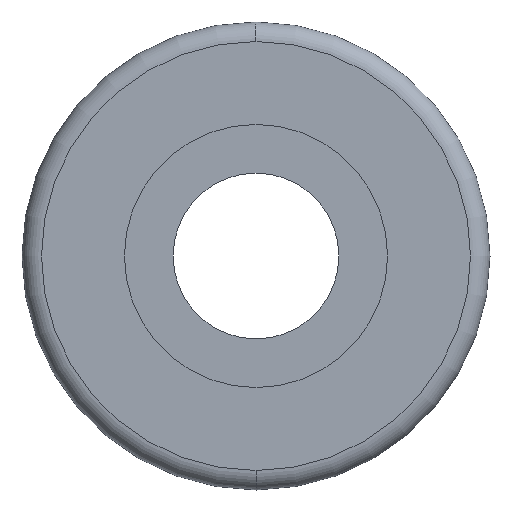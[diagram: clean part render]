
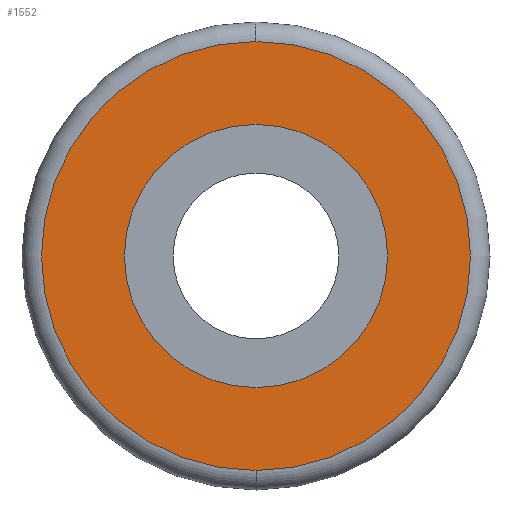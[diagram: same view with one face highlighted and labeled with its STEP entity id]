
A CAD part, left-side view. The second image highlights one B-rep face of the part: STEP entity #1552.
In plain terms, the highlighted planar face has unit normal (-1, 0, 0).
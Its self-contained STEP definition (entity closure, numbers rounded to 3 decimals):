
#721 = CARTESIAN_POINT ( 'NONE',  ( 2., 0., -22. ) ) ;
#747 = CARTESIAN_POINT ( 'NONE',  ( 2., 0., 13.5 ) ) ;
#774 = CARTESIAN_POINT ( 'NONE',  ( 2., 0., -13.5 ) ) ;
#805 = CARTESIAN_POINT ( 'NONE',  ( 2., 0., 22. ) ) ;
#811 = CIRCLE ( 'NONE', #860, 22. ) ;
#829 = DIRECTION ( 'NONE',  ( 0., 0., 1. ) ) ;
#830 = DIRECTION ( 'NONE',  ( -1., 0., 0. ) ) ;
#831 = CARTESIAN_POINT ( 'NONE',  ( 2., 0., 0. ) ) ;
#832 = AXIS2_PLACEMENT_3D ( 'NONE', #831, #830, #829 ) ;
#841 = CIRCLE ( 'NONE', #832, 13.5 ) ;
#855 = DIRECTION ( 'NONE',  ( 0., 0., -1. ) ) ;
#856 = DIRECTION ( 'NONE',  ( -1., 0., 0. ) ) ;
#857 = CARTESIAN_POINT ( 'NONE',  ( 2., 0., 0. ) ) ;
#860 = AXIS2_PLACEMENT_3D ( 'NONE', #857, #856, #855 ) ;
#868 = DIRECTION ( 'NONE',  ( 0., 0., -1. ) ) ;
#869 = DIRECTION ( 'NONE',  ( -1., 0., 0. ) ) ;
#870 = CARTESIAN_POINT ( 'NONE',  ( 2., 0., 0. ) ) ;
#871 = AXIS2_PLACEMENT_3D ( 'NONE', #870, #869, #868 ) ;
#872 = FACE_BOUND ( 'NONE', #1568, .T. ) ;
#873 = AXIS2_PLACEMENT_3D ( 'NONE', #876, #927, #926 ) ;
#875 = CIRCLE ( 'NONE', #871, 22. ) ;
#876 = CARTESIAN_POINT ( 'NONE',  ( 2., 13.5, 0. ) ) ;
#879 = FACE_OUTER_BOUND ( 'NONE', #1553, .T. ) ;
#884 = PLANE ( 'NONE',  #873 ) ;
#910 = DIRECTION ( 'NONE',  ( 0., 0., 1. ) ) ;
#911 = DIRECTION ( 'NONE',  ( -1., 0., 0. ) ) ;
#919 = CIRCLE ( 'NONE', #928, 13.5 ) ;
#925 = CARTESIAN_POINT ( 'NONE',  ( 2., 0., 0. ) ) ;
#926 = DIRECTION ( 'NONE',  ( 0., 0., -1. ) ) ;
#927 = DIRECTION ( 'NONE',  ( 1., 0., 0. ) ) ;
#928 = AXIS2_PLACEMENT_3D ( 'NONE', #925, #911, #910 ) ;
#1476 = VERTEX_POINT ( 'NONE', #721 ) ;
#1477 = VERTEX_POINT ( 'NONE', #774 ) ;
#1499 = VERTEX_POINT ( 'NONE', #747 ) ;
#1502 = VERTEX_POINT ( 'NONE', #805 ) ;
#1507 = EDGE_CURVE ( 'NONE', #1499, #1477, #841, .T. ) ;
#1512 = ORIENTED_EDGE ( 'NONE', *, *, #1522, .T. ) ;
#1522 = EDGE_CURVE ( 'NONE', #1502, #1476, #811, .T. ) ;
#1548 = ORIENTED_EDGE ( 'NONE', *, *, #1562, .F. ) ;
#1549 = ORIENTED_EDGE ( 'NONE', *, *, #1550, .T. ) ;
#1550 = EDGE_CURVE ( 'NONE', #1476, #1502, #875, .T. ) ;
#1551 = ORIENTED_EDGE ( 'NONE', *, *, #1507, .F. ) ;
#1552 = ADVANCED_FACE ( 'NONE', ( #879, #872 ), #884, .F. ) ;
#1553 = EDGE_LOOP ( 'NONE', ( #1549, #1512 ) ) ;
#1562 = EDGE_CURVE ( 'NONE', #1477, #1499, #919, .T. ) ;
#1568 = EDGE_LOOP ( 'NONE', ( #1551, #1548 ) ) ;
